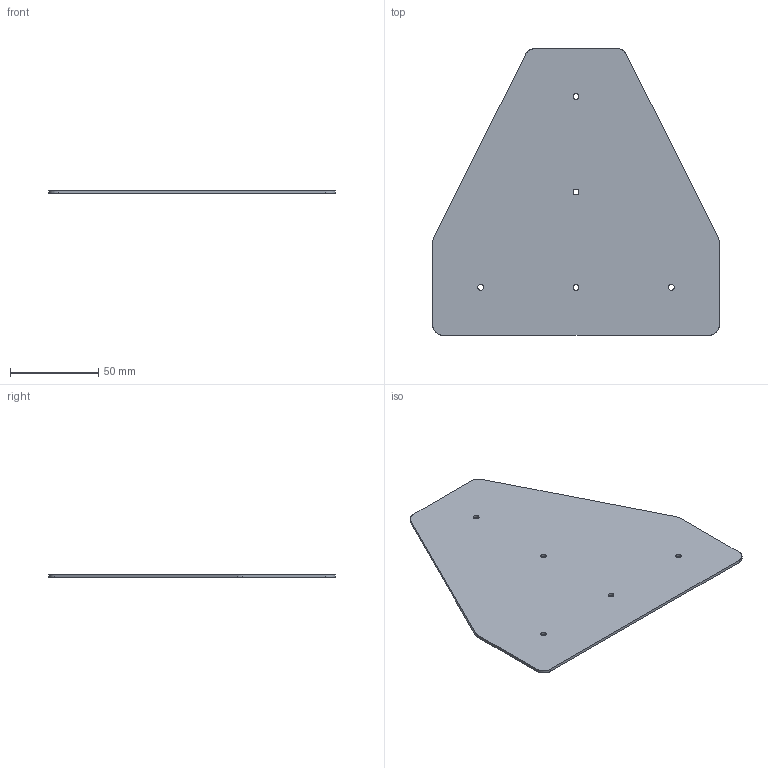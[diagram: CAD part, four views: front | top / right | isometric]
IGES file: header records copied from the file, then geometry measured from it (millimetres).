
Start section: SolidWorks IGES file using analytic representation for surfaces
Global section: file name: C:\Working\Gusset Convert\DRP-002-0008-02.igs; native system: SolidWorks 2010; preprocessor: SolidWorks 2010; author: mbush2; date: 100624.090117; units: inch
Bounding box: 161.93 x 161.93 x 1.59 mm (x, y, z)
Surface area: 41635.2 mm2 (no closed solid volume)
Topology: 0 solids, 0 shells, 24 faces, 316 edges, 316 vertices
Faces by surface type: revolution 16, bspline 8
